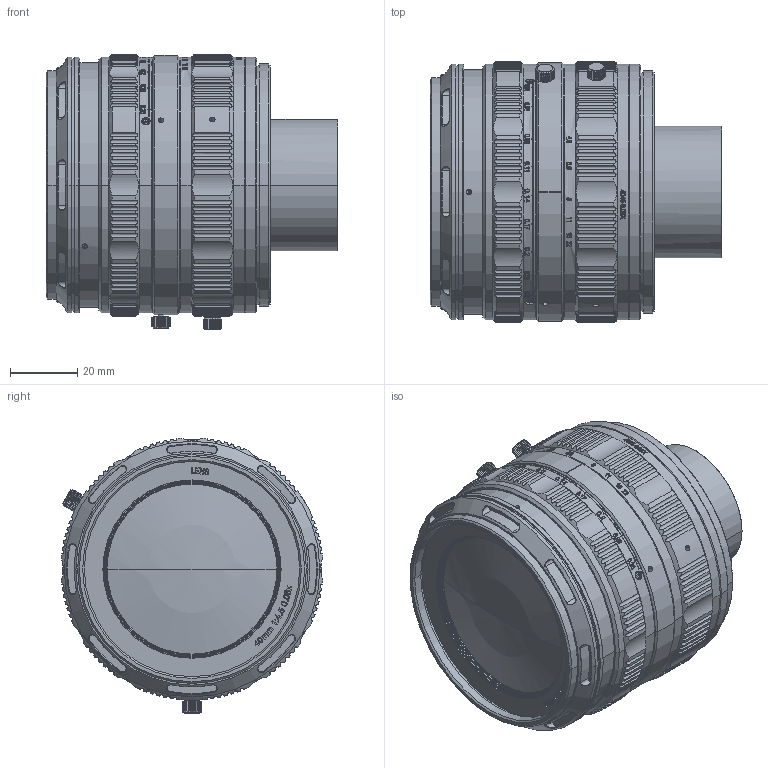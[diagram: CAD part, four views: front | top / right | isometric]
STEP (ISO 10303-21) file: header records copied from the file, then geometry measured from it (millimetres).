
FILE_DESCRIPTION((''),'2;1');
FILE_NAME('OPT-MCT40-4_5-0_08X-V1_0','2024-06-17T19:24:09',('admin'),(''),'CREO PARAMETRIC BY PTC INC, 2020354','CREO PARAMETRIC BY PTC INC, 2020354','');
FILE_SCHEMA(('AUTOMOTIVE_DESIGN { 1 0 10303 214 1 1 1 1 }'));
Length unit declared in the file: millimetre
Products named in the file (1): OPT-MCT40-4_5-0_08X-V1_0
Bounding box: 86.75 x 77.75 x 81.88 mm (x, y, z)
Volume: 132177.8 mm3; surface area: 93135.7 mm2
Topology: 2 solids, 23 shells, 3503 faces, 9406 edges, 6178 vertices
Faces by surface type: plane 1041, cylinder 1030, bspline 550, cone 517, extrusion 338, torus 19, sphere 8
Entity records: 139972 total; most frequent: CARTESIAN_POINT 56212, ORIENTED_EDGE 18796, DIRECTION 14896, EDGE_CURVE 9398, VERTEX_POINT 6178, AXIS2_PLACEMENT_3D 5458, VECTOR 3980, EDGE_LOOP 3800
